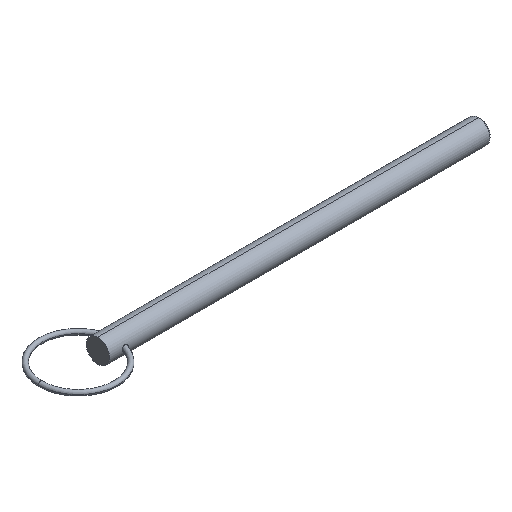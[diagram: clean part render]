
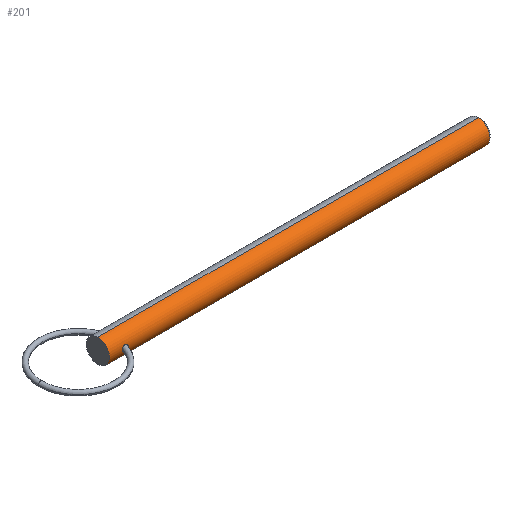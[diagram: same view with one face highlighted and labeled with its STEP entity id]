
A CAD part, isometric view. The second image highlights one B-rep face of the part: STEP entity #201.
In plain terms, the highlighted cylindrical face has radius 3.97 mm (diameter 7.94 mm), a partial arc.
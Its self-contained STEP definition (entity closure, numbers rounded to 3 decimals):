
#2 = EDGE_CURVE ( 'NONE', #740, #26, #123, .T. ) ;
#3 = CARTESIAN_POINT ( 'NONE',  ( 6.144, -3.921, 0.626 ) ) ;
#16 = ORIENTED_EDGE ( 'NONE', *, *, #599, .T. ) ;
#24 = CARTESIAN_POINT ( 'NONE',  ( 129.188, 0., -3.97 ) ) ;
#26 = VERTEX_POINT ( 'NONE', #815 ) ;
#38 = ORIENTED_EDGE ( 'NONE', *, *, #622, .T. ) ;
#53 = CARTESIAN_POINT ( 'NONE',  ( 0., 0., 0. ) ) ;
#55 = CARTESIAN_POINT ( 'NONE',  ( 0., 0., 3.97 ) ) ;
#66 = CARTESIAN_POINT ( 'NONE',  ( 5.055, -3.852, 0.961 ) ) ;
#69 = CARTESIAN_POINT ( 'NONE',  ( 0., 0., -3.97 ) ) ;
#78 = CARTESIAN_POINT ( 'NONE',  ( 6.35, -3.97, 0. ) ) ;
#118 = AXIS2_PLACEMENT_3D ( 'NONE', #723, #192, #133 ) ;
#123 = LINE ( 'NONE', #55, #388 ) ;
#124 = CARTESIAN_POINT ( 'NONE',  ( 4.691, -3.891, 0.792 ) ) ;
#133 = DIRECTION ( 'NONE',  ( 0., 0., -1. ) ) ;
#147 = CARTESIAN_POINT ( 'NONE',  ( 5.837, -3.871, -0.882 ) ) ;
#171 = CARTESIAN_POINT ( 'NONE',  ( 4.26, -3.97, 0. ) ) ;
#185 = DIRECTION ( 'NONE',  ( 1., 0., 0. ) ) ;
#189 = CARTESIAN_POINT ( 'NONE',  ( 6.35, -3.97, 0.134 ) ) ;
#192 = DIRECTION ( 'NONE',  ( 1., 0., 0. ) ) ;
#201 = ADVANCED_FACE ( 'NONE', ( #270, #395 ), #653, .T. ) ;
#209 = AXIS2_PLACEMENT_3D ( 'NONE', #53, #185, #453 ) ;
#212 = CARTESIAN_POINT ( 'NONE',  ( 6.221, -3.939, -0.514 ) ) ;
#239 = B_SPLINE_CURVE_WITH_KNOTS ( 'NONE', 3,
 ( #78, #339, #600, #212, #479, #735, #147, #408, #758, #299, #448, #752, #635, #704, #496, #240 ),
 .UNSPECIFIED., .F., .F.,
 ( 4, 2, 2, 2, 2, 2, 2, 4 ),
 ( 0.004, 0.004, 0.005, 0.005, 0.005, 0.006, 0.007, 0.007 ),
 .UNSPECIFIED. ) ;
#240 = CARTESIAN_POINT ( 'NONE',  ( 4.26, -3.97, 0. ) ) ;
#249 = VECTOR ( 'NONE', #726, 1000. ) ;
#261 = CARTESIAN_POINT ( 'NONE',  ( 6.323, -3.963, 0.268 ) ) ;
#270 = FACE_OUTER_BOUND ( 'NONE', #298, .T. ) ;
#298 = EDGE_LOOP ( 'NONE', ( #679, #16, #38, #804 ) ) ;
#299 = CARTESIAN_POINT ( 'NONE',  ( 5.052, -3.846, -0.984 ) ) ;
#303 = AXIS2_PLACEMENT_3D ( 'NONE', #776, #459, #714 ) ;
#312 = VERTEX_POINT ( 'NONE', #667 ) ;
#328 = CARTESIAN_POINT ( 'NONE',  ( 5.587, -3.849, 0.975 ) ) ;
#339 = CARTESIAN_POINT ( 'NONE',  ( 6.35, -3.97, -0.133 ) ) ;
#354 = VERTEX_POINT ( 'NONE', #24 ) ;
#359 = EDGE_LOOP ( 'NONE', ( #557, #445 ) ) ;
#361 = CIRCLE ( 'NONE', #118, 3.97 ) ;
#383 = CARTESIAN_POINT ( 'NONE',  ( 4.805, -3.876, 0.862 ) ) ;
#386 = CARTESIAN_POINT ( 'NONE',  ( 4.408, -3.939, 0.507 ) ) ;
#388 = VECTOR ( 'NONE', #832, 1000. ) ;
#395 = FACE_BOUND ( 'NONE', #359, .T. ) ;
#396 = CARTESIAN_POINT ( 'NONE',  ( 5.185, -3.845, 0.988 ) ) ;
#407 = CARTESIAN_POINT ( 'NONE',  ( 6.35, -3.97, 0. ) ) ;
#408 = CARTESIAN_POINT ( 'NONE',  ( 5.587, -3.849, -0.975 ) ) ;
#442 = EDGE_CURVE ( 'NONE', #810, #824, #239, .T. ) ;
#445 = ORIENTED_EDGE ( 'NONE', *, *, #442, .T. ) ;
#447 = CIRCLE ( 'NONE', #209, 3.97 ) ;
#448 = CARTESIAN_POINT ( 'NONE',  ( 4.788, -3.876, -0.879 ) ) ;
#453 = DIRECTION ( 'NONE',  ( 0., 0., -1. ) ) ;
#459 = DIRECTION ( 'NONE',  ( 1., 0., 0. ) ) ;
#462 = CARTESIAN_POINT ( 'NONE',  ( 5.455, -3.843, 0.996 ) ) ;
#479 = CARTESIAN_POINT ( 'NONE',  ( 6.145, -3.922, -0.626 ) ) ;
#496 = CARTESIAN_POINT ( 'NONE',  ( 4.26, -3.97, -0.134 ) ) ;
#520 = CARTESIAN_POINT ( 'NONE',  ( 5.953, -3.888, 0.81 ) ) ;
#527 = CARTESIAN_POINT ( 'NONE',  ( 4.292, -3.963, 0.268 ) ) ;
#557 = ORIENTED_EDGE ( 'NONE', *, *, #690, .T. ) ;
#588 = CARTESIAN_POINT ( 'NONE',  ( 5.839, -3.871, 0.882 ) ) ;
#599 = EDGE_CURVE ( 'NONE', #740, #312, #447, .T. ) ;
#600 = CARTESIAN_POINT ( 'NONE',  ( 6.324, -3.963, -0.267 ) ) ;
#602 = CARTESIAN_POINT ( 'NONE',  ( 0., 0., 3.97 ) ) ;
#622 = EDGE_CURVE ( 'NONE', #312, #354, #718, .T. ) ;
#626 = EDGE_CURVE ( 'NONE', #26, #354, #361, .T. ) ;
#635 = CARTESIAN_POINT ( 'NONE',  ( 4.408, -3.939, -0.508 ) ) ;
#643 = CARTESIAN_POINT ( 'NONE',  ( 6.221, -3.939, 0.513 ) ) ;
#653 = CYLINDRICAL_SURFACE ( 'NONE', #303, 3.97 ) ;
#659 = CARTESIAN_POINT ( 'NONE',  ( 4.26, -3.97, 0. ) ) ;
#667 = CARTESIAN_POINT ( 'NONE',  ( 0., 0., -3.97 ) ) ;
#679 = ORIENTED_EDGE ( 'NONE', *, *, #2, .F. ) ;
#690 = EDGE_CURVE ( 'NONE', #824, #810, #782, .T. ) ;
#704 = CARTESIAN_POINT ( 'NONE',  ( 4.291, -3.963, -0.267 ) ) ;
#708 = CARTESIAN_POINT ( 'NONE',  ( 4.26, -3.97, 0.134 ) ) ;
#714 = DIRECTION ( 'NONE',  ( 0., 0., -1. ) ) ;
#718 = LINE ( 'NONE', #69, #249 ) ;
#723 = CARTESIAN_POINT ( 'NONE',  ( 129.188, 0., 0. ) ) ;
#726 = DIRECTION ( 'NONE',  ( 1., 0., 0. ) ) ;
#735 = CARTESIAN_POINT ( 'NONE',  ( 5.952, -3.887, -0.811 ) ) ;
#740 = VERTEX_POINT ( 'NONE', #602 ) ;
#752 = CARTESIAN_POINT ( 'NONE',  ( 4.492, -3.923, -0.614 ) ) ;
#758 = CARTESIAN_POINT ( 'NONE',  ( 5.452, -3.843, -0.996 ) ) ;
#774 = CARTESIAN_POINT ( 'NONE',  ( 6.35, -3.97, 0. ) ) ;
#776 = CARTESIAN_POINT ( 'NONE',  ( 0., 0., 0. ) ) ;
#782 = B_SPLINE_CURVE_WITH_KNOTS ( 'NONE', 3,
 ( #171, #708, #527, #386, #830, #124, #383, #66, #396, #462, #328, #588, #520, #3, #643, #261, #189, #774 ),
 .UNSPECIFIED., .F., .F.,
 ( 4, 2, 2, 2, 2, 2, 2, 2, 4 ),
 ( 0.001, 0.001, 0.001, 0.002, 0.002, 0.003, 0.003, 0.003, 0.004 ),
 .UNSPECIFIED. ) ;
#804 = ORIENTED_EDGE ( 'NONE', *, *, #626, .F. ) ;
#810 = VERTEX_POINT ( 'NONE', #407 ) ;
#815 = CARTESIAN_POINT ( 'NONE',  ( 129.188, 0., 3.97 ) ) ;
#824 = VERTEX_POINT ( 'NONE', #659 ) ;
#830 = CARTESIAN_POINT ( 'NONE',  ( 4.492, -3.923, 0.614 ) ) ;
#832 = DIRECTION ( 'NONE',  ( 1., 0., 0. ) ) ;
